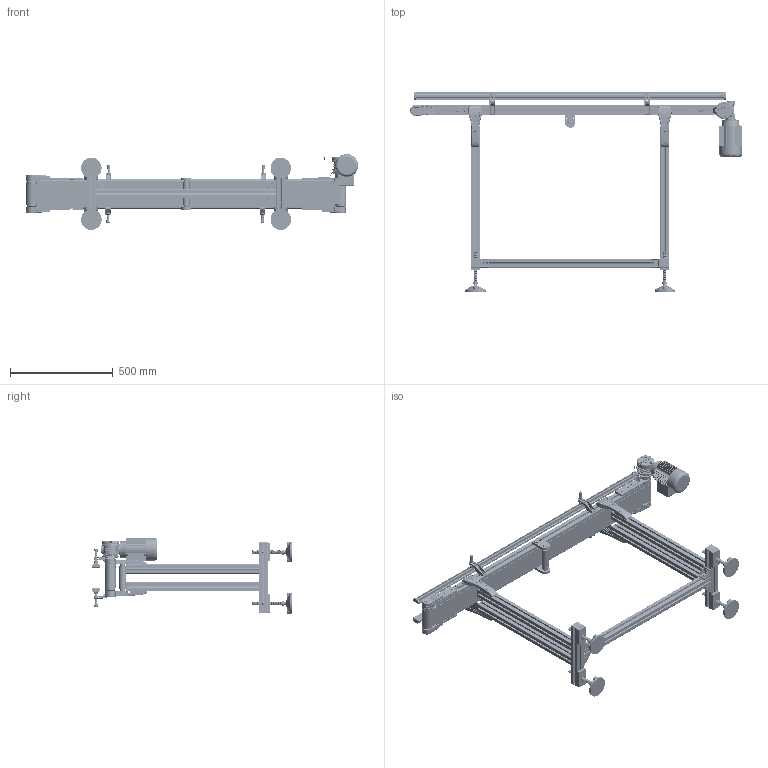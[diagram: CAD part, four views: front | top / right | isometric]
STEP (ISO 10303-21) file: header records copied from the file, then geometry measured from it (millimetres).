
FILE_DESCRIPTION (( 'STEP AP203' ), '1' );
FILE_NAME ('NASTRO_RETTILINEO_TAPPETO.step', '2026-04-21T10:22:59', ( 'Utente Windows' ), ( '' ), 'SwSTEP 2.0', 'SolidWorks 2024', '' );
FILE_SCHEMA (( 'CONFIG_CONTROL_DESIGN' ));
Length unit declared in the file: millimetre
Products named in the file (76): 14UNI7435; 084.811.001; RULLO_REGGITAPPETO; ANGOLARE_43; 2010.000.069; VITI TSEI UNI 5933_M4x12 UNI 5933; 084.712.002; FLANGIA_GAMBA_50; 084.711.006_L1; 084.405.001; 084.201.012-1; VITI TCEI UNI 5931_M6x12 UNI 5931; 084.302.000 DADI ALUSIC 13x13_084.302.004; 084.802.017_084.802.017; VITE_RONDELLA_M8X20; BLOCCO_TRAINO_50_STANDARD_30_DX; SPONDA_Default<A macchina>; 084.711.005; 084.802.008; 084.811.004; VITI TSEI UNI 5933_M4x10 UNI 5933; 084.305.003-1; BLOCCO_BRACCIO_CH03P_VF30P; VITI TSEI UNI 5933_M5x12 UNI 5933; 084.807.003_084.807.003<A macchina>; NASTRO_RETTILINEO_TAPPETO; 084.802.071; BLOCCO_TRAINO_50_STANDARD; GAMBE_D50_Default<A macchina>; 084.711.010; 084.803.018; 084.711.006_L2; CHIAVETTE_A 5x5x20 UNI 6604-69; 084.802.062; 084.301.000 VITI ALUSIC_084.301.003; 2010.000.070; 084.802.014; 2010.000.068_L; BLOCCO_PERNO_50_30; 084.302.000 DADI ALUSIC 13x13-1_084.302.004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
Assembly tree (176 placements, depth 4):
  NASTRO_RETTILINEO_TAPPETO
    TAPPETO_STANDARD
    TELAIO_50_STANDARD_Default<A macchina>
    LAMIERA_STANDARD
    RULLO_50_Default<A macchina>  x2
    BLOCCO_PERNO_50_30
      084.810.001
      084.811.001
      RONDELLE FASCIA LARGA UNI 6593_5.4x20 UNI 6593
      084.301.000 VITI ALUSIC_084.301.009
      CHIAVETTE_A 5x5x40 UNI 6604-69
      CHIAVETTE_A 5x5x20 UNI 6604-69
      14UNI7435
    BLOCCO_TRAINO_50_STANDARD_30_DX
      084.807.003_084.807.003<A macchina>
      084.802.017_084.802.017
      084.301.000 VITI ALUSIC_084.301.003  x2
      084.302.000 DADI ALUSIC 13x13-1_084.302.004  x2
      BLOCCO_BRACCIO_CH03P_VF30P
        084.808.012
        084.802.062
        084.802.061
        VITI TE UNI 5739_M6x16 UNI 5739  x4
        084.803.018
        VITI TCEI UNI 5931_M6x12 UNI 5931  x4
      084.802.065_Default<A macchina>
      VITI TCEI UNI 5931_M4x25 UNI 5931  x2
    BLOCCO_PERNO_50_RINVIO  x3
      084.811.004
      084.810.001
    BLOCCO_TRAINO_50_STANDARD
      084.807.002_084.807.002
      084.802.017_084.802.017
      084.301.000 VITI ALUSIC_084.301.003  x2
      084.302.000 DADI ALUSIC 13x13-1_084.302.004  x2
      VITI TSEI UNI 5933_M4x12 UNI 5933  x4
      084.802.071
      VITI TSEI UNI 5933 INOX_0412UNI5933A2  x2
    BLOCCO_RINVIO_50_STANDARD  x2
      084.807.002_084.807.002
      084.802.017_084.802.017
      084.802.008
      084.301.000 VITI ALUSIC_084.301.003
      084.302.000 DADI ALUSIC 13x13_084.302.004
      VITI TSEI UNI 5933_M4x10 UNI 5933
      084.802.071
    SPONDA_Default<A macchina>  x2
    084.711.006_PER CAVA 8 PERNO ALTO 1  x4
      084.711.006_L1
      084.711.006_L2
      084.711.007
      084.711.005
      084.711.010
      DADI ESAGONALI NORMALI UNI 5588_M6 UNI 5588
    084.712.002  x4
    GAMBE_D50_Default<A macchina>  x2
    FLANGIA_GAMBA_50
      084.302.000 DADI ALUSIC 13x13-1_084.302.004  x4
      RONDELLE UNI 6592_8.4x17 UNI 6592  x3
      084.301.000 VITI ALUSIC_084.301.003  x4
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Bounding box: 1612 x 972.1 x 367.94 mm (x, y, z)
Volume: 10640478.5 mm3; surface area: 7026415.6 mm2
Topology: 303 solids, 311 shells, 16370 faces, 42621 edges, 27101 vertices
Faces by surface type: plane 6851, cylinder 5083, bspline 1770, cone 1371, torus 1129, sphere 166
Entity records: 247456 total; most frequent: CARTESIAN_POINT 84232, ORIENTED_EDGE 33454, DIRECTION 30220, EDGE_CURVE 16727, VERTEX_POINT 10770, AXIS2_PLACEMENT_3D 10545, VECTOR 9130, LINE 9130
